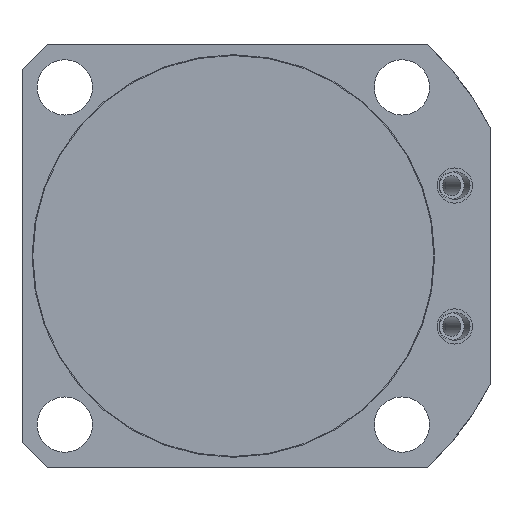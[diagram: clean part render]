
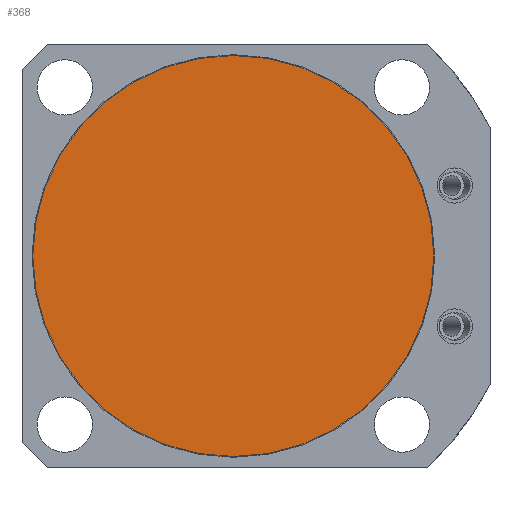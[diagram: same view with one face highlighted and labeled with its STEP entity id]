
A CAD part, front view. The second image highlights one B-rep face of the part: STEP entity #368.
In plain terms, the highlighted planar face has unit normal (0, -1, 0).
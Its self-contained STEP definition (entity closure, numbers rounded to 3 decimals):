
#368 = ADVANCED_FACE( '', ( #704 ), #705, .T. );
#704 = FACE_OUTER_BOUND( '', #1364, .T. );
#705 = PLANE( '', #1365 );
#1364 = EDGE_LOOP( '', ( #2184 ) );
#1365 = AXIS2_PLACEMENT_3D( '', #2185, #2186, #2187 );
#2184 = ORIENTED_EDGE( '', *, *, #4142, .T. );
#2185 = CARTESIAN_POINT( '', ( 0., -70., 0. ) );
#2186 = DIRECTION( '', ( 0., -1., 0. ) );
#2187 = DIRECTION( '', ( 1., 0., 0. ) );
#4142 = EDGE_CURVE( '', #4888, #4888, #4889, .T. );
#4888 = VERTEX_POINT( '', #6150 );
#4889 = CIRCLE( '', #6151, 39.85 );
#6150 = CARTESIAN_POINT( '', ( -39.85, -70., 0. ) );
#6151 = AXIS2_PLACEMENT_3D( '', #7710, #7711, #7712 );
#7710 = CARTESIAN_POINT( '', ( 0., -70., 0. ) );
#7711 = DIRECTION( '', ( 0., -1., 0. ) );
#7712 = DIRECTION( '', ( -1., 0., 0. ) );
